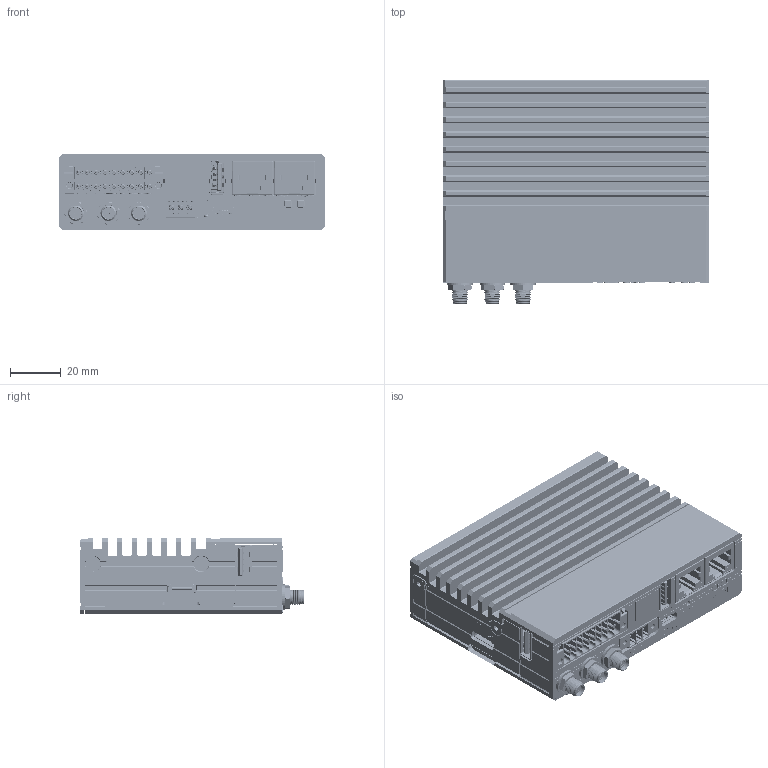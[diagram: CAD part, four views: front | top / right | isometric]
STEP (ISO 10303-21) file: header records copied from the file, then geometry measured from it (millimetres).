
FILE_DESCRIPTION (( 'STEP AP214' ), '1' );
FILE_NAME ('V2IMX8PLUS_v2.STEP', '2026-09-07T08:55:17', ( '' ), ( '' ), 'SwSTEP 2.0', 'SolidWorks 2019', '' );
FILE_SCHEMA (( 'AUTOMOTIVE_DESIGN' ));
Length unit declared in the file: millimetre
Products named in the file (1): V2IMX8PLUS_v2
Bounding box: 105 x 87.9 x 30 mm (x, y, z)
Surface area: 127110.9 mm2 (no closed solid volume)
Topology: 0 solids, 311 shells, 19764 faces, 55122 edges, 36356 vertices
Faces by surface type: plane 13279, cylinder 5151, bspline 853, cone 412, sphere 36, torus 33
Full cylindrical faces by diameter (mm): 0.1 x2, 0.2 x1, 0.268 x1, 0.3 x4, 0.41 x1, 0.45 x4, 0.5 x3, 0.711 x8, 0.8 x4, 0.82 x2, 0.85 x2, 0.889 x26, 0.95 x8, 1 x4, 1.02 x8, 1.05 x5, 1.1 x8, 1.143 x17, 1.187 x4, 1.194 x2, 1.3 x21, 1.35 x1, 1.4 x3, 1.5 x12, 1.6 x3, 1.68 x3, 1.702 x2, 1.867 x3, 2 x7, 2.03 x10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
Entity records: 879144 total; most frequent: CARTESIAN_POINT 159324, ORIENTED_EDGE 108604, DIRECTION 96031, EDGE_CURVE 54327, LINE 39979, VECTOR 39979, VERTEX_POINT 36117, AXIS2_PLACEMENT_3D 28026
